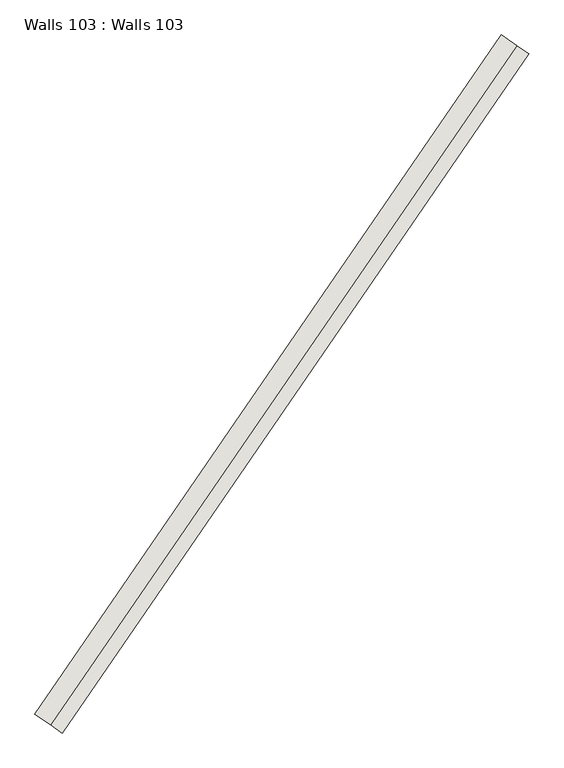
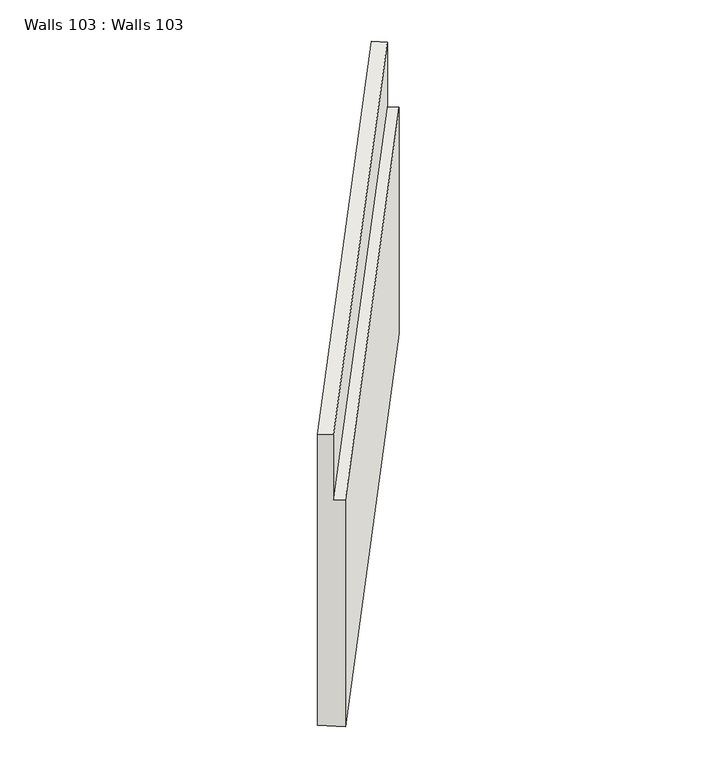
"""IFC4 building model written with IfcOpenShell, lengths in millimetres: wall geometry, Walls 103 : Walls 103."""

from ifc_helpers import new_model, si_unit, frame, origin, place, context, project, spatial, polyline, outline, extrude, source, transform, mapped, element, save


def walls_103_walls_103_e8f42e50(model_context):
    return source(origin(), model_context, "Body", "SweptSolid", [
        extrude(outline(polyline([(659067.0, 0.0), (654567.0, 0.0), (654567.0, 350.0), (658067.0, 350.0), (658067.0, 200.0), (659067.0, 200.0), (659067.0, 0.0)])), frame((580388.1859937, 497783.6039189, 0.0), z_axis=(0.5664229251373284, 0.8241147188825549, 0.0), x_axis=(0.0, 0.0, 1.0)), (0.0, 0.0, 1.0), 8700.0000011),
    ])


if __name__ == "__main__":
    model = new_model("IFC4")
    model_context = context("Model", 3, world=origin())
    ifc_project = project(units=[si_unit("LENGTHUNIT", "METRE", prefix="MILLI")], contexts=[model_context])
    site = spatial("IfcSite", under=ifc_project)
    building = spatial("IfcBuilding", under=site)
    placement = place(None, origin())
    walls_103_walls_103_shape = walls_103_walls_103_e8f42e50(model_context)
    element("IfcWall", 1, ObjectType="Walls 103 : Walls 103", at=placement, inside=building, context=model_context, shape_type="MappedRepresentation", body=[
        mapped(walls_103_walls_103_shape, transform((0.0, 0.0, 0.0), x_axis=(1.0, 0.0, 0.0), y_axis=(0.0, 1.0, 0.0), z_axis=(0.0, 0.0, 1.0))),
    ])
    save(model, "model.ifc")
